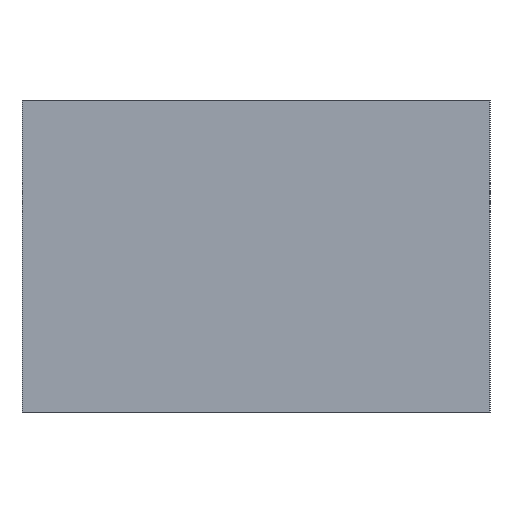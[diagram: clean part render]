
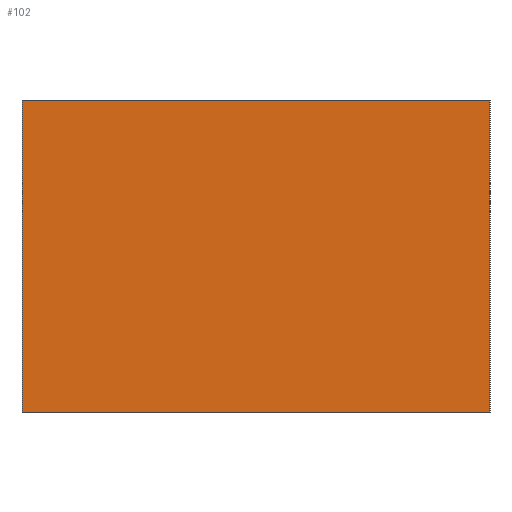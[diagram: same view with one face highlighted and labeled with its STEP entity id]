
A CAD part, left-side view. The second image highlights one B-rep face of the part: STEP entity #102.
In plain terms, the highlighted planar face has unit normal (-1, 0, 0).
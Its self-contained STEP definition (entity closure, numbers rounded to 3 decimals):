
#11=DIRECTION('Y axis',(0.,1.,0.));
#12=DIRECTION('Z axis',(0.,0.,1.));
#13=DIRECTION('Negative X',(-1.,0.,0.));
#14=DIRECTION('Negative Y',(0.,-1.,0.));
#21=CARTESIAN_POINT('P1',(0.,0.,0.));
#22=VERTEX_POINT('V1',#21);
#27=CARTESIAN_POINT('P4',(0.,60.,0.));
#28=VERTEX_POINT('V4',#27);
#29=CARTESIAN_POINT('P5',(0.,0.,40.));
#30=VERTEX_POINT('V5',#29);
#35=CARTESIAN_POINT('P8',(0.,60.,40.));
#36=VERTEX_POINT('V8',#35);
#46=VECTOR('edge vector 4',#14,1.);
#47=LINE('edge line 4',#27,#46);
#48=EDGE_CURVE('edge 4',#28,#22,#47,.T.);
#58=VECTOR('edge vector 8',#14,1.);
#59=LINE('edge line 8',#35,#58);
#60=EDGE_CURVE('edge 8',#36,#30,#59,.T.);
#61=VECTOR('edge vector 9',#12,1.);
#62=LINE('edge line 9',#21,#61);
#63=EDGE_CURVE('edge 9',#22,#30,#62,.T.);
#70=VECTOR('edge vector 12',#12,1.);
#71=LINE('edge line 12',#27,#70);
#72=EDGE_CURVE('edge 12',#28,#36,#71,.T.);
#93=ORIENTED_EDGE('',*,*,#63,.T.);
#94=ORIENTED_EDGE('',*,*,#60,.F.);
#95=ORIENTED_EDGE('',*,*,#72,.F.);
#96=ORIENTED_EDGE('',*,*,#48,.T.);
#97=EDGE_LOOP('',(#93,#94,#95,#96));
#98=FACE_OUTER_BOUND('',#97,.T.);
#99=CARTESIAN_POINT('Face origin 3',(0.,0.,0.));
#100=AXIS2_PLACEMENT_3D('Face placement 3',#99,#13,#11);
#101=PLANE('Face plane 3',#100);
#102=ADVANCED_FACE('Face 3',(#98),#101,.T.);
